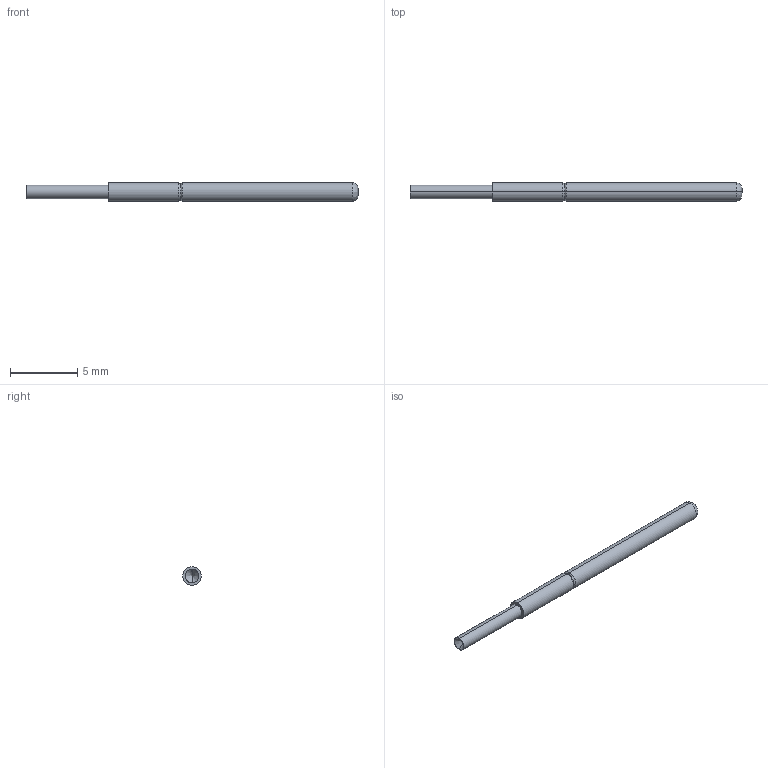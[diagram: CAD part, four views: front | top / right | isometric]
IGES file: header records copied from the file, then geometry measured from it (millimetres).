
Start section: SolidWorks IGES file using analytic representation for surfaces
Global section: file name: Z:\probe solid model mockups\Solidworks models\IGES Files\EPA-2\EPA-2G40.IGS; native system: SolidWorks 2006 by SolidWorks Corporation; preprocessor: SolidWorks 2006 by SolidWorks Corporation; author: tsakatani; date: 071220.161945; units: inch
Bounding box: 24.64 x 1.37 x 1.37 mm (x, y, z)
Surface area: 101.9 mm2 (no closed solid volume)
Topology: 0 solids, 0 shells, 16 faces, 104 edges, 102 vertices
Faces by surface type: bspline 8, revolution 8
